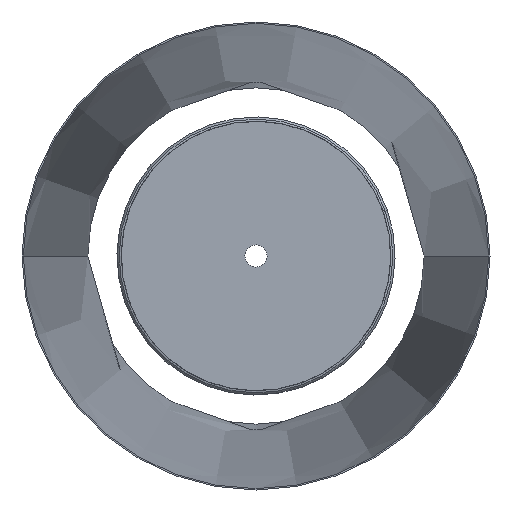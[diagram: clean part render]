
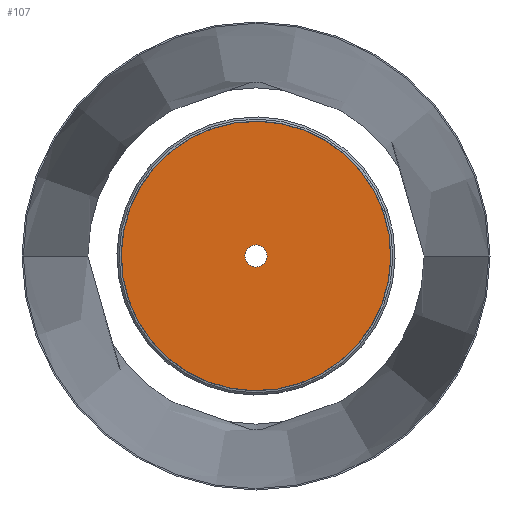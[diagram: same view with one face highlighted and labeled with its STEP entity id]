
A CAD part, front view. The second image highlights one B-rep face of the part: STEP entity #107.
In plain terms, the highlighted planar face has unit normal (0, -1, 0).
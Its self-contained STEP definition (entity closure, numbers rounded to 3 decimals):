
#9 = CARTESIAN_POINT ( 'NONE',  ( 189.116, 1261.046, 350.218 ) ) ;
#23 = EDGE_LOOP ( 'NONE', ( #610, #501 ) ) ;
#75 = CARTESIAN_POINT ( 'NONE',  ( 184.389, 1261.046, 348.588 ) ) ;
#107 = ADVANCED_FACE ( 'NONE', ( #1562, #971 ), #349, .T. ) ;
#133 = CARTESIAN_POINT ( 'NONE',  ( 131.444, 1261.046, 330.328 ) ) ;
#271 = AXIS2_PLACEMENT_3D ( 'NONE', #513, #635, #1464 ) ;
#309 = AXIS2_PLACEMENT_3D ( 'NONE', #532, #758, #414 ) ;
#349 = PLANE ( 'NONE',  #717 ) ;
#367 = EDGE_CURVE ( 'NONE', #398, #1193, #1344, .T. ) ;
#372 = DIRECTION ( 'NONE',  ( -0.945, 0., -0.326 ) ) ;
#395 = DIRECTION ( 'NONE',  ( 0.945, 0., 0.326 ) ) ;
#398 = VERTEX_POINT ( 'NONE', #665 ) ;
#414 = DIRECTION ( 'NONE',  ( -0.945, 0., -0.326 ) ) ;
#501 = ORIENTED_EDGE ( 'NONE', *, *, #1302, .T. ) ;
#513 = CARTESIAN_POINT ( 'NONE',  ( 189.116, 1261.046, 350.218 ) ) ;
#532 = CARTESIAN_POINT ( 'NONE',  ( 189.116, 1261.046, 350.218 ) ) ;
#610 = ORIENTED_EDGE ( 'NONE', *, *, #1418, .T. ) ;
#634 = AXIS2_PLACEMENT_3D ( 'NONE', #9, #729, #372 ) ;
#635 = DIRECTION ( 'NONE',  ( 0., 1., 0. ) ) ;
#658 = EDGE_LOOP ( 'NONE', ( #782, #927 ) ) ;
#665 = CARTESIAN_POINT ( 'NONE',  ( 193.843, 1261.046, 351.848 ) ) ;
#717 = AXIS2_PLACEMENT_3D ( 'NONE', #1488, #1263, #1235 ) ;
#729 = DIRECTION ( 'NONE',  ( 0., -1., 0. ) ) ;
#739 = CIRCLE ( 'NONE', #309, 61.006 ) ;
#758 = DIRECTION ( 'NONE',  ( 0., -1., 0. ) ) ;
#782 = ORIENTED_EDGE ( 'NONE', *, *, #367, .T. ) ;
#839 = VERTEX_POINT ( 'NONE', #884 ) ;
#854 = CIRCLE ( 'NONE', #1479, 5. ) ;
#884 = CARTESIAN_POINT ( 'NONE',  ( 246.788, 1261.046, 370.108 ) ) ;
#927 = ORIENTED_EDGE ( 'NONE', *, *, #1371, .T. ) ;
#971 = FACE_OUTER_BOUND ( 'NONE', #23, .T. ) ;
#994 = DIRECTION ( 'NONE',  ( 0., 1., 0. ) ) ;
#1193 = VERTEX_POINT ( 'NONE', #75 ) ;
#1235 = DIRECTION ( 'NONE',  ( -0.945, 0., -0.326 ) ) ;
#1263 = DIRECTION ( 'NONE',  ( 0., -1., 0. ) ) ;
#1302 = EDGE_CURVE ( 'NONE', #839, #1584, #1432, .T. ) ;
#1344 = CIRCLE ( 'NONE', #271, 5. ) ;
#1371 = EDGE_CURVE ( 'NONE', #1193, #398, #854, .T. ) ;
#1382 = CARTESIAN_POINT ( 'NONE',  ( 189.116, 1261.046, 350.218 ) ) ;
#1418 = EDGE_CURVE ( 'NONE', #1584, #839, #739, .T. ) ;
#1432 = CIRCLE ( 'NONE', #634, 61.006 ) ;
#1464 = DIRECTION ( 'NONE',  ( 0.945, 0., 0.326 ) ) ;
#1479 = AXIS2_PLACEMENT_3D ( 'NONE', #1382, #994, #395 ) ;
#1488 = CARTESIAN_POINT ( 'NONE',  ( 189.116, 1261.046, 350.218 ) ) ;
#1562 = FACE_BOUND ( 'NONE', #658, .T. ) ;
#1584 = VERTEX_POINT ( 'NONE', #133 ) ;
